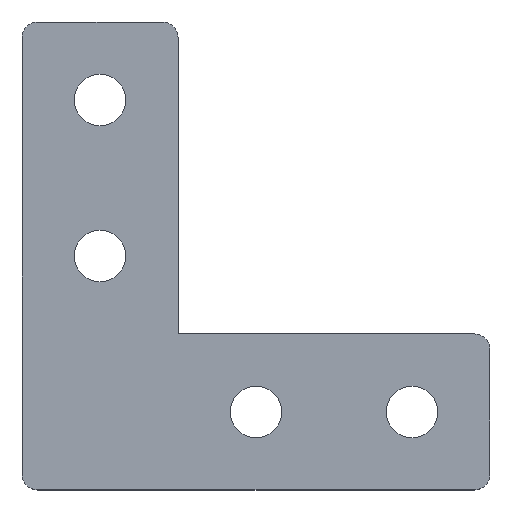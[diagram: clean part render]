
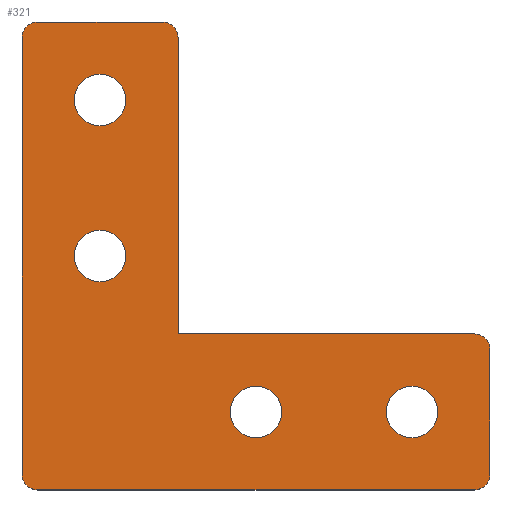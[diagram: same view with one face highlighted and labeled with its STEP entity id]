
A CAD part, top view. The second image highlights one B-rep face of the part: STEP entity #321.
In plain terms, the highlighted planar face has unit normal (0, 0, 1).
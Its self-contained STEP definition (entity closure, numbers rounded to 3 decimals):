
#13=LINE($,#479,#36);
#18=LINE($,#493,#41);
#22=LINE($,#505,#45);
#26=LINE($,#517,#49);
#30=LINE($,#529,#53);
#34=LINE($,#540,#57);
#36=VECTOR($,#388,38.);
#41=VECTOR($,#401,16.);
#45=VECTOR($,#413,56.);
#49=VECTOR($,#425,56.);
#53=VECTOR($,#437,16.);
#57=VECTOR($,#449,38.);
#66=PLANE($,#359);
#76=FACE_BOUND($,#120,.T.);
#77=FACE_BOUND($,#121,.T.);
#78=FACE_BOUND($,#122,.T.);
#79=FACE_BOUND($,#123,.T.);
#80=FACE_BOUND($,#124,.T.);
#120=EDGE_LOOP($,(#281));
#121=EDGE_LOOP($,(#282));
#122=EDGE_LOOP($,(#283));
#123=EDGE_LOOP($,(#284));
#124=EDGE_LOOP($,(#285,#286,#287,#288,#289,#290,#291,#292,#293,#294,#295));
#126=CIRCLE($,#327,3.324);
#128=CIRCLE($,#330,3.324);
#130=CIRCLE($,#333,3.324);
#132=CIRCLE($,#336,3.324);
#133=CIRCLE($,#339,2.);
#135=CIRCLE($,#343,2.);
#137=CIRCLE($,#347,2.);
#139=CIRCLE($,#351,2.);
#141=CIRCLE($,#355,2.);
#144=VERTEX_POINT($,#459);
#146=VERTEX_POINT($,#464);
#148=VERTEX_POINT($,#469);
#150=VERTEX_POINT($,#474);
#151=VERTEX_POINT($,#477);
#152=VERTEX_POINT($,#478);
#155=VERTEX_POINT($,#486);
#157=VERTEX_POINT($,#492);
#159=VERTEX_POINT($,#498);
#161=VERTEX_POINT($,#504);
#163=VERTEX_POINT($,#510);
#165=VERTEX_POINT($,#516);
#167=VERTEX_POINT($,#522);
#169=VERTEX_POINT($,#528);
#171=VERTEX_POINT($,#534);
#174=EDGE_CURVE($,#144,#144,#126,.T.);
#176=EDGE_CURVE($,#146,#146,#128,.T.);
#178=EDGE_CURVE($,#148,#148,#130,.T.);
#180=EDGE_CURVE($,#150,#150,#132,.T.);
#181=EDGE_CURVE($,#151,#152,#13,.T.);
#185=EDGE_CURVE($,#152,#155,#133,.T.);
#188=EDGE_CURVE($,#155,#157,#18,.T.);
#191=EDGE_CURVE($,#157,#159,#135,.T.);
#194=EDGE_CURVE($,#159,#161,#22,.T.);
#197=EDGE_CURVE($,#161,#163,#137,.T.);
#200=EDGE_CURVE($,#163,#165,#26,.T.);
#203=EDGE_CURVE($,#165,#167,#139,.T.);
#206=EDGE_CURVE($,#167,#169,#30,.T.);
#209=EDGE_CURVE($,#169,#171,#141,.T.);
#212=EDGE_CURVE($,#171,#151,#34,.T.);
#281=ORIENTED_EDGE($,*,*,#174,.T.);
#282=ORIENTED_EDGE($,*,*,#176,.T.);
#283=ORIENTED_EDGE($,*,*,#178,.T.);
#284=ORIENTED_EDGE($,*,*,#180,.T.);
#285=ORIENTED_EDGE($,*,*,#181,.F.);
#286=ORIENTED_EDGE($,*,*,#212,.F.);
#287=ORIENTED_EDGE($,*,*,#209,.F.);
#288=ORIENTED_EDGE($,*,*,#206,.F.);
#289=ORIENTED_EDGE($,*,*,#203,.F.);
#290=ORIENTED_EDGE($,*,*,#200,.F.);
#291=ORIENTED_EDGE($,*,*,#197,.F.);
#292=ORIENTED_EDGE($,*,*,#194,.F.);
#293=ORIENTED_EDGE($,*,*,#191,.F.);
#294=ORIENTED_EDGE($,*,*,#188,.F.);
#295=ORIENTED_EDGE($,*,*,#185,.F.);
#321=ADVANCED_FACE($,(#76,#77,#78,#79,#80),#66,.T.);
#327=AXIS2_PLACEMENT_3D($,#460,#366,#367);
#330=AXIS2_PLACEMENT_3D($,#465,#372,#373);
#333=AXIS2_PLACEMENT_3D($,#470,#378,#379);
#336=AXIS2_PLACEMENT_3D($,#475,#384,#385);
#339=AXIS2_PLACEMENT_3D($,#487,#394,#395);
#343=AXIS2_PLACEMENT_3D($,#499,#406,#407);
#347=AXIS2_PLACEMENT_3D($,#511,#418,#419);
#351=AXIS2_PLACEMENT_3D($,#523,#430,#431);
#355=AXIS2_PLACEMENT_3D($,#535,#442,#443);
#359=AXIS2_PLACEMENT_3D($,#543,#453,#454);
#366=DIRECTION('center_axis',(0.,0.,-1.));
#367=DIRECTION('ref_axis',(1.,0.,0.));
#372=DIRECTION('center_axis',(0.,0.,-1.));
#373=DIRECTION('ref_axis',(1.,0.,0.));
#378=DIRECTION('center_axis',(0.,0.,-1.));
#379=DIRECTION('ref_axis',(1.,0.,0.));
#384=DIRECTION('center_axis',(0.,0.,-1.));
#385=DIRECTION('ref_axis',(1.,0.,0.));
#388=DIRECTION($,(1.,0.,0.));
#394=DIRECTION('center_axis',(0.,0.,-1.));
#395=DIRECTION('ref_axis',(1.,0.,0.));
#401=DIRECTION($,(0.,-1.,0.));
#406=DIRECTION('center_axis',(0.,0.,-1.));
#407=DIRECTION('ref_axis',(0.,-1.,0.));
#413=DIRECTION($,(-1.,0.,0.));
#418=DIRECTION('center_axis',(0.,0.,-1.));
#419=DIRECTION('ref_axis',(-1.,0.,0.));
#425=DIRECTION($,(0.,1.,0.));
#430=DIRECTION('center_axis',(0.,0.,-1.));
#431=DIRECTION('ref_axis',(0.,1.,0.));
#437=DIRECTION($,(1.,0.,0.));
#442=DIRECTION('center_axis',(0.,0.,-1.));
#443=DIRECTION('ref_axis',(1.,0.,0.));
#449=DIRECTION($,(0.,-1.,0.));
#453=DIRECTION('center_axis',(0.,0.,1.));
#454=DIRECTION('ref_axis',(1.,0.,0.));
#459=CARTESIAN_POINT('',(33.324,10.,5.));
#460=CARTESIAN_POINT('Origin',(30.,10.,5.));
#464=CARTESIAN_POINT('',(53.324,10.,5.));
#465=CARTESIAN_POINT('Origin',(50.,10.,5.));
#469=CARTESIAN_POINT('',(13.324,50.,5.));
#470=CARTESIAN_POINT('Origin',(10.,50.,5.));
#474=CARTESIAN_POINT('',(13.324,30.,5.));
#475=CARTESIAN_POINT('Origin',(10.,30.,5.));
#477=CARTESIAN_POINT('',(20.,20.,5.));
#478=CARTESIAN_POINT('',(58.,20.,5.));
#479=CARTESIAN_POINT($,(58.,20.,5.));
#486=CARTESIAN_POINT('',(60.,18.,5.));
#487=CARTESIAN_POINT('Origin',(58.,18.,5.));
#492=CARTESIAN_POINT('',(60.,2.,5.));
#493=CARTESIAN_POINT($,(60.,2.,5.));
#498=CARTESIAN_POINT('',(58.,0.,5.));
#499=CARTESIAN_POINT('Origin',(58.,2.,5.));
#504=CARTESIAN_POINT('',(2.,0.,5.));
#505=CARTESIAN_POINT($,(2.,0.,5.));
#510=CARTESIAN_POINT('',(0.,2.,5.));
#511=CARTESIAN_POINT('Origin',(2.,2.,5.));
#516=CARTESIAN_POINT('',(0.,58.,5.));
#517=CARTESIAN_POINT($,(0.,58.,5.));
#522=CARTESIAN_POINT('',(2.,60.,5.));
#523=CARTESIAN_POINT('Origin',(2.,58.,5.));
#528=CARTESIAN_POINT('',(18.,60.,5.));
#529=CARTESIAN_POINT($,(18.,60.,5.));
#534=CARTESIAN_POINT('',(20.,58.,5.));
#535=CARTESIAN_POINT('Origin',(18.,58.,5.));
#540=CARTESIAN_POINT($,(20.,20.,5.));
#543=CARTESIAN_POINT('Origin',(23.247,23.247,5.));
